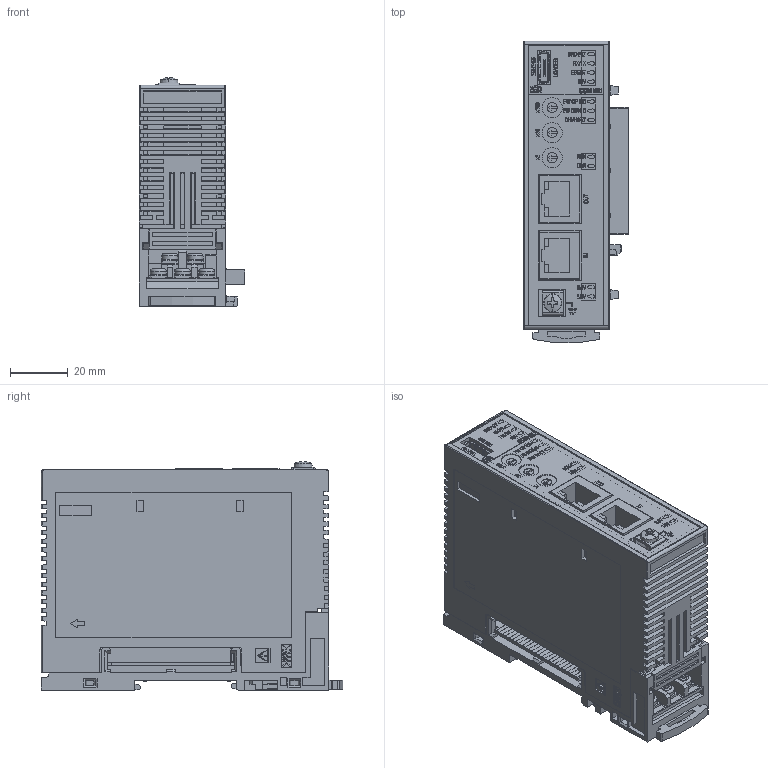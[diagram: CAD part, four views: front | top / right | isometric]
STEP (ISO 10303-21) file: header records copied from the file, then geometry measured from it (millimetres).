
FILE_DESCRIPTION (( 'STEP AP203' ), '1' );
FILE_NAME ('COM-ME-3_WEB.STEP', '2020-09-28T07:50:13', ( '' ), ( '' ), 'SwSTEP 2.0', 'SolidWorks 2018', '' );
FILE_SCHEMA (( 'CONFIG_CONTROL_DESIGN' ));
Products named in the file (1): COM-ME-3_WEB
Bounding box: 36.65 x 104.76 x 79.41 mm (x, y, z)
Volume: 164517.7 mm3; surface area: 62687.3 mm2
Topology: 3 solids, 14 shells, 4500 faces, 12117 edges, 7910 vertices
Faces by surface type: plane 3427, bspline 577, cylinder 442, sphere 26, torus 18, cone 10
Entity records: 152740 total; most frequent: CARTESIAN_POINT 43455, ORIENTED_EDGE 24170, DIRECTION 19455, EDGE_CURVE 12085, LINE 9899, VECTOR 9899, VERTEX_POINT 7902, EDGE_LOOP 4987
